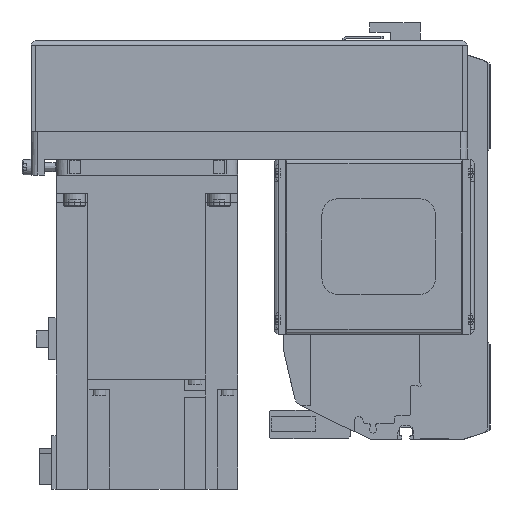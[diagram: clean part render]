
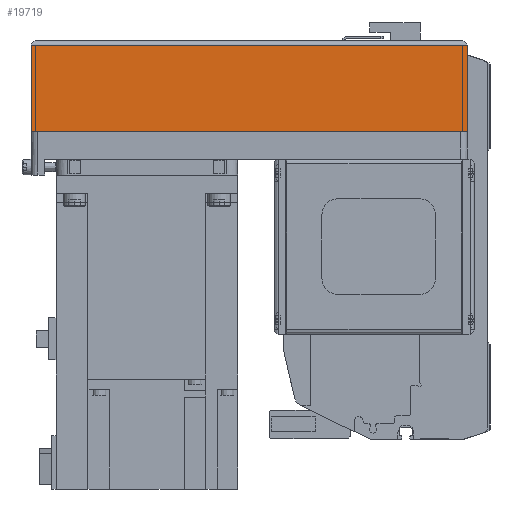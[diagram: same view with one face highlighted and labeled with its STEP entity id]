
A CAD part, left-side view. The second image highlights one B-rep face of the part: STEP entity #19719.
In plain terms, the highlighted planar face has unit normal (-1, 0, 0) as drawn and (0, 1, 0) by its records, which use the part's own axes.
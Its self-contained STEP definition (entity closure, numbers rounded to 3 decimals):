
#3036=ORIENTED_EDGE('',*,*,#7947,.F.);
#3037=ORIENTED_EDGE('',*,*,#7987,.F.);
#3038=ORIENTED_EDGE('',*,*,#7924,.T.);
#3039=ORIENTED_EDGE('',*,*,#7937,.T.);
#7924=EDGE_CURVE('',#10543,#10546,#12570,.T.);
#7937=EDGE_CURVE('',#10546,#10558,#12583,.T.);
#7947=EDGE_CURVE('',#10566,#10558,#12593,.T.);
#7987=EDGE_CURVE('',#10543,#10566,#12611,.T.);
#10543=VERTEX_POINT('',#30232);
#10546=VERTEX_POINT('',#30237);
#10558=VERTEX_POINT('',#30265);
#10566=VERTEX_POINT('',#30285);
#12570=LINE('',#30238,#14296);
#12583=LINE('',#30266,#14309);
#12593=LINE('',#30286,#14319);
#12611=LINE('',#30356,#14337);
#14296=VECTOR('',#24186,1000.);
#14309=VECTOR('',#24205,1000.);
#14319=VECTOR('',#24219,1000.);
#14337=VECTOR('',#24313,1000.);
#15879=EDGE_LOOP('',(#3036,#3037,#3038,#3039));
#17491=FACE_BOUND('',#15879,.T.);
#18936=PLANE('',#21138);
#19719=ADVANCED_FACE('',(#17491),#18936,.T.);
#21138=AXIS2_PLACEMENT_3D('',#30355,#24311,#24312);
#24186=DIRECTION('',(0.,0.,1.));
#24205=DIRECTION('',(1.,0.,0.));
#24219=DIRECTION('',(0.,0.,1.));
#24311=DIRECTION('',(0.,1.,0.));
#24312=DIRECTION('',(0.,0.,1.));
#24313=DIRECTION('',(1.,0.,0.));
#30232=CARTESIAN_POINT('',(-192.,40.,-50.));
#30237=CARTESIAN_POINT('',(-192.,40.,-12.1));
#30238=CARTESIAN_POINT('',(-192.,40.,-50.));
#30265=CARTESIAN_POINT('',(0.,40.,-12.1));
#30266=CARTESIAN_POINT('',(-192.,40.,-12.1));
#30285=CARTESIAN_POINT('',(0.,40.,-50.));
#30286=CARTESIAN_POINT('',(0.,40.,-50.));
#30355=CARTESIAN_POINT('',(-192.,40.,-50.));
#30356=CARTESIAN_POINT('',(-192.,40.,-50.));
